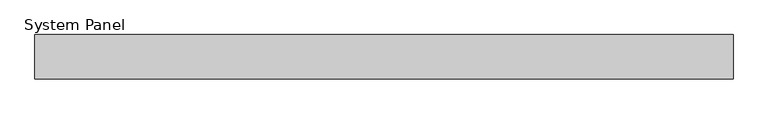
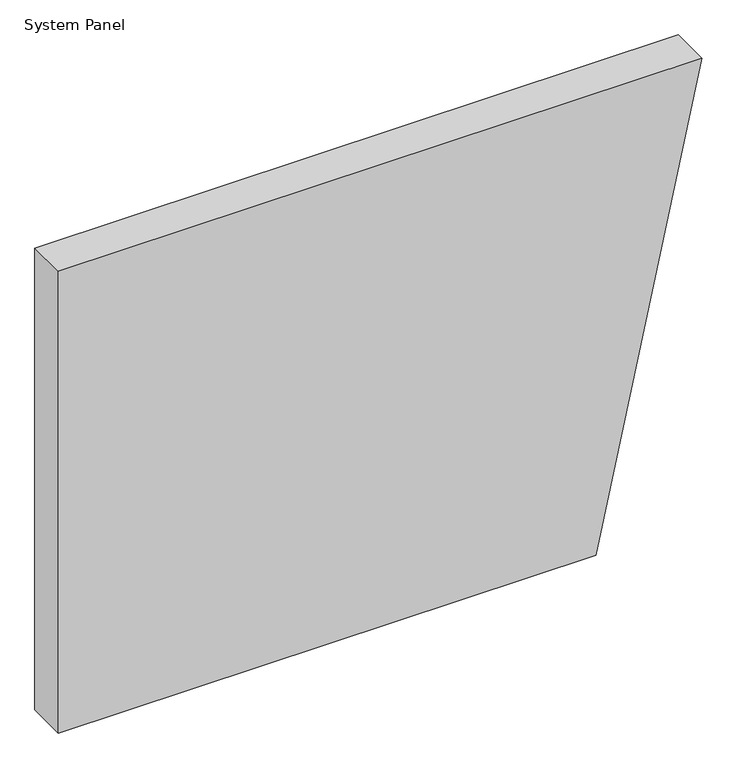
"""IFC4 building model written with IfcOpenShell, lengths in millimetres: plate geometry, System Panel : Equitilt 100mm Horizontal - Plain RHEA - EPS-FR."""

from ifc_helpers import new_model, si_unit, frame, origin, place, context, project, spatial, polyline, outline, extrude, source, transform, mapped, element, save


def system_panel_da9f9245(model_context):
    return source(origin(), model_context, "Body", "SweptSolid", [
        extrude(outline(polyline([(0.0, -791.3074928), (0.0, 530.4358309), (1200.0, 791.3074928), (1200.0, -791.3074928), (0.0, -791.3074928)])), frame((0.0, -100.0, 0.0), z_axis=(0.0, 1.0, 0.0), x_axis=(0.0, 0.0, 1.0)), (0.0, 0.0, 1.0), 100.0),
    ])


if __name__ == "__main__":
    model = new_model("IFC4")
    model_context = context("Model", 3, world=origin())
    ifc_project = project(units=[si_unit("LENGTHUNIT", "METRE", prefix="MILLI")], contexts=[model_context])
    site = spatial("IfcSite", under=ifc_project)
    building = spatial("IfcBuilding", under=site)
    placement = place(None, origin())
    system_panel_shape = system_panel_da9f9245(model_context)
    element("IfcPlate", 1, ObjectType="System Panel : Equitilt 100mm Horizontal - Plain RHEA - EPS-FR", at=placement, inside=building, context=model_context, shape_type="MappedRepresentation", body=[
        mapped(system_panel_shape, transform((0.0, 0.0, 0.0), x_axis=(1.0, 0.0, 0.0), y_axis=(0.0, 1.0, 0.0), z_axis=(0.0, 0.0, 1.0))),
    ])
    save(model, "model.ifc")
